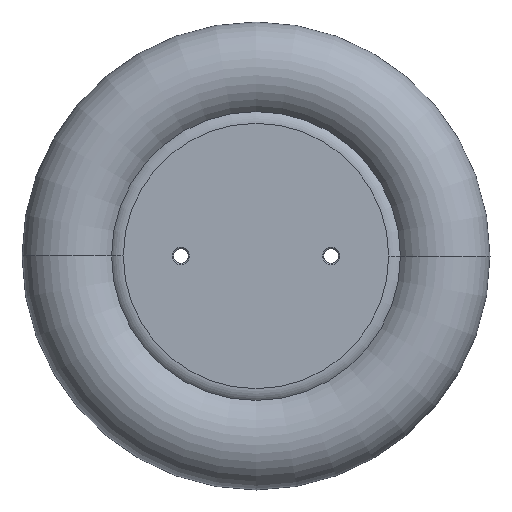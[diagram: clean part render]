
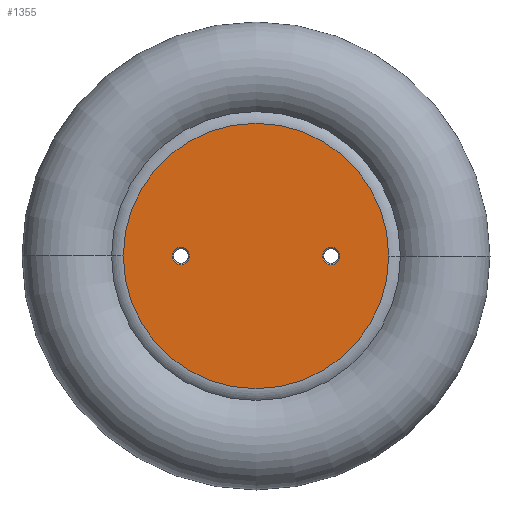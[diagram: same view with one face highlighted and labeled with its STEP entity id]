
A CAD part, front view. The second image highlights one B-rep face of the part: STEP entity #1355.
In plain terms, the highlighted planar face has unit normal (0, -1, 0).
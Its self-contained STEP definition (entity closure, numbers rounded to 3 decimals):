
#308=CARTESIAN_POINT('',(0.,-38.5,0.));
#309=DIRECTION('',(0.,-1.,0.));
#310=DIRECTION('',(-1.,0.,0.));
#311=AXIS2_PLACEMENT_3D('',#308,#309,#310);
#316=CARTESIAN_POINT('',(0.,-38.5,0.));
#317=DIRECTION('',(0.,1.,0.));
#318=DIRECTION('',(-1.,0.,0.));
#319=AXIS2_PLACEMENT_3D('',#316,#317,#318);
#324=CARTESIAN_POINT('',(-35.,-38.5,0.));
#325=DIRECTION('',(0.,1.,0.));
#326=DIRECTION('',(1.,0.,0.));
#327=AXIS2_PLACEMENT_3D('',#324,#325,#326);
#332=CARTESIAN_POINT('',(-35.,-38.5,0.));
#333=DIRECTION('',(0.,1.,0.));
#334=DIRECTION('',(-1.,0.,0.));
#335=AXIS2_PLACEMENT_3D('',#332,#333,#334);
#340=CARTESIAN_POINT('',(35.,-38.5,0.));
#341=DIRECTION('',(0.,1.,0.));
#342=DIRECTION('',(1.,0.,0.));
#343=AXIS2_PLACEMENT_3D('',#340,#341,#342);
#348=CARTESIAN_POINT('',(35.,-38.5,0.));
#349=DIRECTION('',(0.,1.,0.));
#350=DIRECTION('',(-1.,0.,0.));
#351=AXIS2_PLACEMENT_3D('',#348,#349,#350);
#752=CARTESIAN_POINT('',(-61.75,-38.5,0.));
#753=CARTESIAN_POINT('',(61.75,-38.5,0.));
#754=VERTEX_POINT('',#752);
#755=VERTEX_POINT('',#753);
#784=CARTESIAN_POINT('',(-31.,-38.5,0.));
#785=CARTESIAN_POINT('',(-39.,-38.5,0.));
#786=VERTEX_POINT('',#784);
#787=VERTEX_POINT('',#785);
#792=CARTESIAN_POINT('',(39.,-38.5,0.));
#793=CARTESIAN_POINT('',(31.,-38.5,0.));
#794=VERTEX_POINT('',#792);
#795=VERTEX_POINT('',#793);
#1334=CARTESIAN_POINT('',(0.,-38.5,0.));
#1335=DIRECTION('',(0.,1.,0.));
#1336=DIRECTION('',(1.,0.,0.));
#1337=AXIS2_PLACEMENT_3D('',#1334,#1335,#1336);
#1338=PLANE('',#1337);
#1339=ORIENTED_EDGE('',*,*,#1314,.F.);
#1340=ORIENTED_EDGE('',*,*,#1291,.T.);
#1341=EDGE_LOOP('',(#1339,#1340));
#1342=FACE_OUTER_BOUND('',#1341,.F.);
#1344=ORIENTED_EDGE('',*,*,#1343,.F.);
#1346=ORIENTED_EDGE('',*,*,#1345,.F.);
#1347=EDGE_LOOP('',(#1344,#1346));
#1348=FACE_BOUND('',#1347,.F.);
#1350=ORIENTED_EDGE('',*,*,#1349,.F.);
#1352=ORIENTED_EDGE('',*,*,#1351,.F.);
#1353=EDGE_LOOP('',(#1350,#1352));
#1354=FACE_BOUND('',#1353,.F.);
#1355=ADVANCED_FACE('',(#1342,#1348,#1354),#1338,.F.);
#312=CIRCLE('',#311,61.75);
#320=CIRCLE('',#319,61.75);
#328=CIRCLE('',#327,4.);
#336=CIRCLE('',#335,4.);
#344=CIRCLE('',#343,4.);
#352=CIRCLE('',#351,4.);
#1291=EDGE_CURVE('',#754,#755,#320,.T.);
#1314=EDGE_CURVE('',#754,#755,#312,.T.);
#1343=EDGE_CURVE('',#786,#787,#328,.T.);
#1345=EDGE_CURVE('',#787,#786,#336,.T.);
#1349=EDGE_CURVE('',#794,#795,#344,.T.);
#1351=EDGE_CURVE('',#795,#794,#352,.T.);
